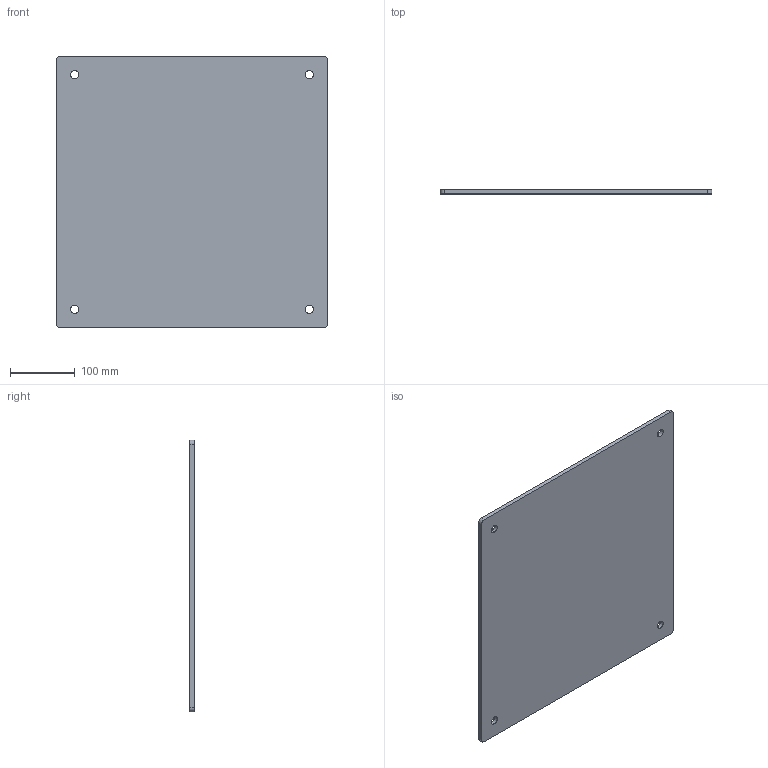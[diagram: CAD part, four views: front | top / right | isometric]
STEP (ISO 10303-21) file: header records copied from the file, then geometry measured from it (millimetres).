
FILE_DESCRIPTION (( 'STEP AP214' ), '1' );
FILE_NAME ('TVL-931.STEP', '2021-04-09T14:54:05', ( '' ), ( '' ), 'SwSTEP 2.0', 'SolidWorks 2013', '' );
FILE_SCHEMA (( 'AUTOMOTIVE_DESIGN' ));
Length unit declared in the file: inch
Products named in the file (1): TVL-931
Bounding box: 419.1 x 6.35 x 419.1 mm (x, y, z)
Volume: 1111907.2 mm3; surface area: 361796.3 mm2
Topology: 1 solids, 1 shells, 18 faces, 48 edges, 32 vertices
Faces by surface type: cylinder 12, plane 6
Entity records: 632 total; most frequent: DIRECTION 110, CARTESIAN_POINT 99, ORIENTED_EDGE 96, EDGE_CURVE 48, AXIS2_PLACEMENT_3D 43, VERTEX_POINT 32, EDGE_LOOP 26, LINE 24
